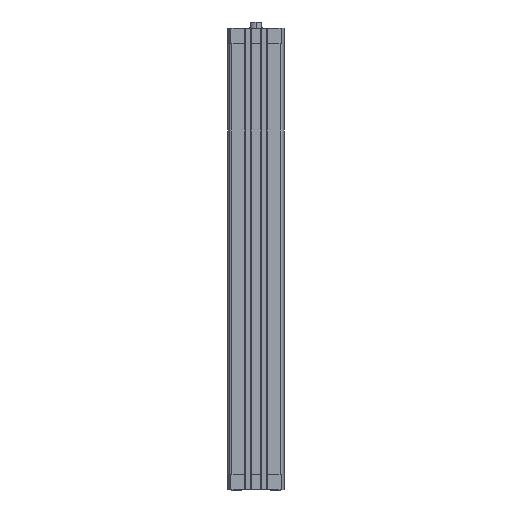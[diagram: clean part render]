
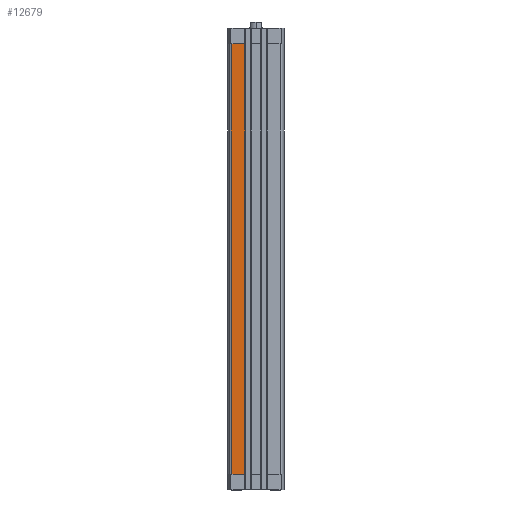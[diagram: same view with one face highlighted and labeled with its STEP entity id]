
A CAD part, left-side view. The second image highlights one B-rep face of the part: STEP entity #12679.
In plain terms, the highlighted planar face has unit normal (-1, 0, 0).
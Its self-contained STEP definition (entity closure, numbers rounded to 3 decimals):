
#1372 = LINE ( 'NONE', #15536, #4178 ) ;
#1499 = VERTEX_POINT ( 'NONE', #10151 ) ;
#1559 = ORIENTED_EDGE ( 'NONE', *, *, #2197, .T. ) ;
#2197 = EDGE_CURVE ( 'NONE', #11317, #11038, #5627, .T. ) ;
#2384 = VECTOR ( 'NONE', #10370, 1000. ) ;
#2391 = EDGE_CURVE ( 'NONE', #11038, #10546, #9044, .T. ) ;
#2758 = CARTESIAN_POINT ( 'NONE',  ( -27., 0., -15. ) ) ;
#3168 = PLANE ( 'NONE',  #3670 ) ;
#3670 = AXIS2_PLACEMENT_3D ( 'NONE', #10574, #11801, #4502 ) ;
#4178 = VECTOR ( 'NONE', #4628, 1000. ) ;
#4502 = DIRECTION ( 'NONE',  ( 0., 0., 1. ) ) ;
#4628 = DIRECTION ( 'NONE',  ( 0., -1., 0. ) ) ;
#4632 = LINE ( 'NONE', #8321, #7478 ) ;
#4917 = ORIENTED_EDGE ( 'NONE', *, *, #7064, .T. ) ;
#5136 = ORIENTED_EDGE ( 'NONE', *, *, #11165, .T. ) ;
#5627 = LINE ( 'NONE', #6710, #2384 ) ;
#5856 = ORIENTED_EDGE ( 'NONE', *, *, #2391, .T. ) ;
#6710 = CARTESIAN_POINT ( 'NONE',  ( -27., 10.7, -430. ) ) ;
#7064 = EDGE_CURVE ( 'NONE', #10546, #1499, #4632, .T. ) ;
#7478 = VECTOR ( 'NONE', #8377, 1000. ) ;
#8321 = CARTESIAN_POINT ( 'NONE',  ( -27., 24.093, -430. ) ) ;
#8377 = DIRECTION ( 'NONE',  ( 0., 0., -1. ) ) ;
#8873 = DIRECTION ( 'NONE',  ( 0., 1., 0. ) ) ;
#9044 = LINE ( 'NONE', #2758, #11911 ) ;
#9691 = EDGE_LOOP ( 'NONE', ( #5136, #1559, #5856, #4917 ) ) ;
#10151 = CARTESIAN_POINT ( 'NONE',  ( -27., 24.093, -430. ) ) ;
#10370 = DIRECTION ( 'NONE',  ( 0., 0., 1. ) ) ;
#10546 = VERTEX_POINT ( 'NONE', #10557 ) ;
#10557 = CARTESIAN_POINT ( 'NONE',  ( -27., 24.093, -15. ) ) ;
#10574 = CARTESIAN_POINT ( 'NONE',  ( -27., 24.093, -430. ) ) ;
#11038 = VERTEX_POINT ( 'NONE', #12804 ) ;
#11165 = EDGE_CURVE ( 'NONE', #1499, #11317, #1372, .T. ) ;
#11317 = VERTEX_POINT ( 'NONE', #14688 ) ;
#11801 = DIRECTION ( 'NONE',  ( -1., 0., 0. ) ) ;
#11911 = VECTOR ( 'NONE', #8873, 1000. ) ;
#12679 = ADVANCED_FACE ( 'NONE', ( #13409 ), #3168, .T. ) ;
#12804 = CARTESIAN_POINT ( 'NONE',  ( -27., 10.7, -15. ) ) ;
#13409 = FACE_OUTER_BOUND ( 'NONE', #9691, .T. ) ;
#14688 = CARTESIAN_POINT ( 'NONE',  ( -27., 10.7, -430. ) ) ;
#15536 = CARTESIAN_POINT ( 'NONE',  ( -27., 24.093, -430. ) ) ;
